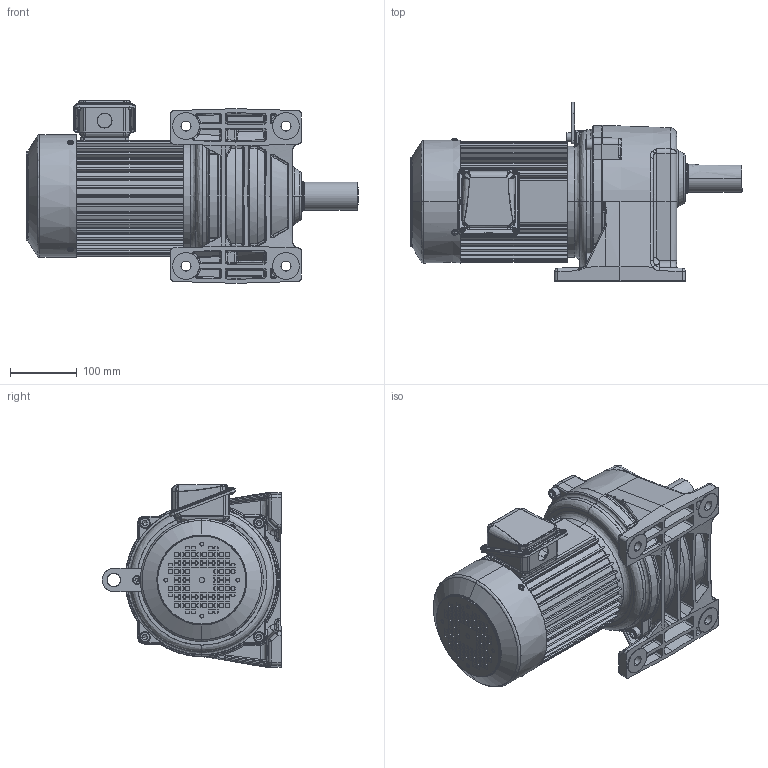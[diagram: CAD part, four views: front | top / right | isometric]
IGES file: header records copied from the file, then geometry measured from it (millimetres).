
Start section: SolidWorks IGES file using analytic representation for surfaces
Global section: file name: \\100.100.100.8\1_共有作業フォルダ\1-5_３Ｄデータ\solidworks\personal-folder\H.Nagayama\SGP1外形075~370\P1(3D)_075~370\igs\TML2-15-(30~80).IGS; native system: SolidWorks 2018; preprocessor: SolidWorks 2018; author: sigma-giken; date: 200806.162035; units: millimetre
Bounding box: 498 x 269.5 x 274 mm (x, y, z)
Surface area: 787493.7 mm2 (no closed solid volume)
Topology: 0 solids, 0 shells, 2673 faces, 29565 edges, 29514 vertices
Faces by surface type: bspline 1453, revolution 1220
